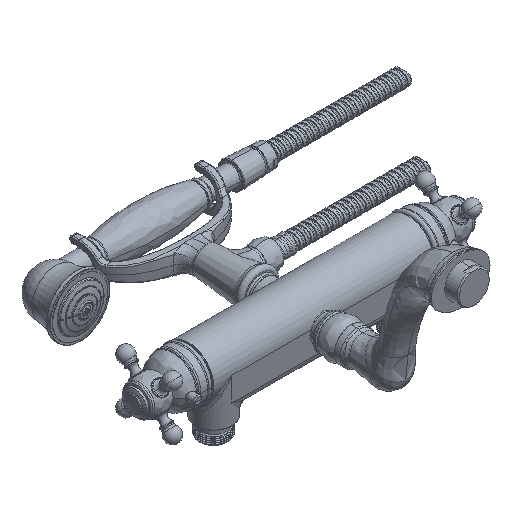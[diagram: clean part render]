
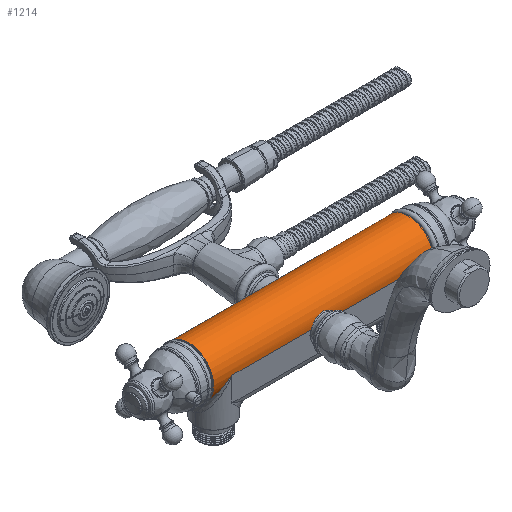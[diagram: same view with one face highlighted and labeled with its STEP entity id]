
A CAD part, isometric view. The second image highlights one B-rep face of the part: STEP entity #1214.
In plain terms, the highlighted cylindrical face has radius 21.75 mm (diameter 43.5 mm), a partial arc.
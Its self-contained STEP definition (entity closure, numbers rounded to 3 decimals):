
#1=CARTESIAN_POINT('',(96.,0.,0.));
#2=DIRECTION('',(1.,0.,0.));
#3=DIRECTION('',(0.,0.375,-0.927));
#4=AXIS2_PLACEMENT_3D('',#1,#2,#3);
#51=CARTESIAN_POINT('',(-96.,0.,0.));
#52=DIRECTION('',(1.,0.,0.));
#53=DIRECTION('',(0.,0.375,-0.927));
#54=AXIS2_PLACEMENT_3D('',#51,#52,#53);
#306=CARTESIAN_POINT('',(80.,-21.75,0.));
#307=CARTESIAN_POINT('',(80.937,-21.75,
-0.792));
#308=CARTESIAN_POINT('',(82.677,-21.663,-2.264));
#309=CARTESIAN_POINT('',(84.819,-21.386,-4.08));
#310=CARTESIAN_POINT('',(86.668,-21.021,-5.652));
#311=CARTESIAN_POINT('',(88.327,-20.587,-7.067));
#312=CARTESIAN_POINT('',(89.947,-20.058,-8.455));
#313=CARTESIAN_POINT('',(91.583,-19.405,-9.866));
#314=CARTESIAN_POINT('',(93.19,-18.629,-11.264));
#315=CARTESIAN_POINT('',(94.708,-17.752,-12.599));
#316=CARTESIAN_POINT('',(95.587,-17.153,-13.382));
#317=CARTESIAN_POINT('',(96.,-16.85,-13.753));
#319=DIRECTION('',(1.,0.,0.));
#320=VECTOR('',#319,69.038);
#321=CARTESIAN_POINT('',(10.962,-21.75,0.));
#322=LINE('',#321,#320);
#323=CARTESIAN_POINT('',(10.962,-21.75,0.));
#324=CARTESIAN_POINT('',(10.67,-21.75,0.712));
#325=CARTESIAN_POINT('',(9.958,-21.681,2.056));
#326=CARTESIAN_POINT('',(8.52,-21.43,3.844));
#327=CARTESIAN_POINT('',(6.731,-21.097,5.347));
#328=CARTESIAN_POINT('',(4.647,-20.767,6.489));
#329=CARTESIAN_POINT('',(2.346,-20.527,7.196));
#330=CARTESIAN_POINT('',(0.792,-20.47,7.35));
#331=CARTESIAN_POINT('',(0.,-20.47,7.35));
#333=CARTESIAN_POINT('',(0.,-20.47,7.35));
#334=CARTESIAN_POINT('',(-0.792,-20.47,7.35));
#335=CARTESIAN_POINT('',(-2.346,-20.527,7.196));
#336=CARTESIAN_POINT('',(-4.647,-20.767,6.489));
#337=CARTESIAN_POINT('',(-6.731,-21.097,5.347));
#338=CARTESIAN_POINT('',(-8.519,-21.43,3.844));
#339=CARTESIAN_POINT('',(-9.958,-21.681,2.057));
#340=CARTESIAN_POINT('',(-10.67,-21.75,0.712));
#341=CARTESIAN_POINT('',(-10.962,-21.75,0.));
#343=DIRECTION('',(1.,0.,0.));
#344=VECTOR('',#343,69.038);
#345=CARTESIAN_POINT('',(-80.,-21.75,0.));
#346=LINE('',#345,#344);
#347=CARTESIAN_POINT('',(-96.,-16.85,-13.753));
#348=CARTESIAN_POINT('',(-95.589,-17.151,
-13.384));
#349=CARTESIAN_POINT('',(-94.718,-17.745,
-12.608));
#350=CARTESIAN_POINT('',(-93.231,-18.607,
-11.3));
#351=CARTESIAN_POINT('',(-91.66,-19.37,
-9.933));
#352=CARTESIAN_POINT('',(-90.043,-20.024,
-8.538));
#353=CARTESIAN_POINT('',(-88.403,-20.566,
-7.131));
#354=CARTESIAN_POINT('',(-86.695,-21.016,
-5.675));
#355=CARTESIAN_POINT('',(-84.801,-21.39,
-4.064));
#356=CARTESIAN_POINT('',(-82.635,-21.666,
-2.229));
#357=CARTESIAN_POINT('',(-80.918,-21.75,
-0.776));
#358=CARTESIAN_POINT('',(-80.,-21.75,0.));
#360=CARTESIAN_POINT('',(-66.469,9.722,-19.456));
#361=CARTESIAN_POINT('',(-67.615,10.352,-19.141));
#362=CARTESIAN_POINT('',(-69.979,11.415,-18.536));
#363=CARTESIAN_POINT('',(-73.855,12.511,-17.801));
#364=CARTESIAN_POINT('',(-77.713,13.044,-17.405));
#365=CARTESIAN_POINT('',(-81.536,13.092,-17.369));
#366=CARTESIAN_POINT('',(-85.391,12.654,-17.696));
#367=CARTESIAN_POINT('',(-89.278,11.677,-18.37));
#368=CARTESIAN_POINT('',(-92.969,10.132,-19.28));
#369=CARTESIAN_POINT('',(-95.036,8.858,-19.879));
#370=CARTESIAN_POINT('',(-96.,8.151,-20.165));
#372=DIRECTION('',(1.,0.,0.));
#373=VECTOR('',#372,132.931);
#374=CARTESIAN_POINT('',(-66.466,9.722,-19.456));
#375=LINE('',#374,#373);
#376=CARTESIAN_POINT('',(96.,8.151,-20.165));
#377=CARTESIAN_POINT('',(95.035,8.858,-19.879));
#378=CARTESIAN_POINT('',(92.968,10.132,-19.28));
#379=CARTESIAN_POINT('',(89.278,11.677,-18.37));
#380=CARTESIAN_POINT('',(85.39,12.654,-17.696));
#381=CARTESIAN_POINT('',(81.535,13.092,-17.369));
#382=CARTESIAN_POINT('',(77.713,13.044,-17.405));
#383=CARTESIAN_POINT('',(73.855,12.511,-17.801));
#384=CARTESIAN_POINT('',(69.979,11.415,-18.536));
#385=CARTESIAN_POINT('',(67.615,10.352,-19.141));
#386=CARTESIAN_POINT('',(66.469,9.722,-19.456));
#958=CARTESIAN_POINT('',(80.,-21.75,0.));
#959=VERTEX_POINT('',#958);
#960=CARTESIAN_POINT('',(-80.,-21.75,0.));
#961=VERTEX_POINT('',#960);
#962=CARTESIAN_POINT('',(-66.466,9.722,-19.456));
#963=CARTESIAN_POINT('',(66.466,9.722,-19.456));
#964=VERTEX_POINT('',#962);
#965=VERTEX_POINT('',#963);
#970=CARTESIAN_POINT('',(96.,8.151,-20.165));
#971=CARTESIAN_POINT('',(96.,-16.85,-13.753));
#972=VERTEX_POINT('',#970);
#973=VERTEX_POINT('',#971);
#976=CARTESIAN_POINT('',(-96.,8.151,-20.165));
#977=CARTESIAN_POINT('',(-96.,-16.85,-13.753));
#978=VERTEX_POINT('',#976);
#979=VERTEX_POINT('',#977);
#982=VERTEX_POINT('',#333);
#983=VERTEX_POINT('',#341);
#986=VERTEX_POINT('',#323);
#1187=CARTESIAN_POINT('',(-97.5,0.,0.));
#1188=DIRECTION('',(1.,0.,0.));
#1189=DIRECTION('',(0.,0.,1.));
#1190=AXIS2_PLACEMENT_3D('',#1187,#1188,#1189);
#1191=CYLINDRICAL_SURFACE('',#1190,21.75);
#1192=ORIENTED_EDGE('',*,*,#1036,.T.);
#1194=ORIENTED_EDGE('',*,*,#1193,.F.);
#1196=ORIENTED_EDGE('',*,*,#1195,.F.);
#1198=ORIENTED_EDGE('',*,*,#1197,.T.);
#1200=ORIENTED_EDGE('',*,*,#1199,.T.);
#1202=ORIENTED_EDGE('',*,*,#1201,.F.);
#1204=ORIENTED_EDGE('',*,*,#1203,.F.);
#1205=ORIENTED_EDGE('',*,*,#1076,.F.);
#1207=ORIENTED_EDGE('',*,*,#1206,.F.);
#1209=ORIENTED_EDGE('',*,*,#1208,.T.);
#1211=ORIENTED_EDGE('',*,*,#1210,.F.);
#1212=EDGE_LOOP('',(#1192,#1194,#1196,#1198,#1200,#1202,#1204,#1205,#1207,#1209,
#1211));
#1213=FACE_OUTER_BOUND('',#1212,.F.);
#1214=ADVANCED_FACE('',(#1213),#1191,.T.);
#5=CIRCLE('',#4,21.75);
#55=CIRCLE('',#54,21.75);
#318=B_SPLINE_CURVE_WITH_KNOTS('',3,(#306,#307,#308,#309,#310,#311,#312,#313,
#314,#315,#316,#317),.UNSPECIFIED.,.F.,.F.,(4,1,1,1,1,1,1,1,1,4),(0.,
0.111,0.222,0.333,0.444,
0.556,0.667,0.778,0.889,1.),
.UNSPECIFIED.);
#332=B_SPLINE_CURVE_WITH_KNOTS('',3,(#323,#324,#325,#326,#327,#328,#329,#330,
#331),.UNSPECIFIED.,.F.,.F.,(4,1,1,1,1,1,4),(0.,0.167,
0.333,0.5,0.667,0.833,1.),
.UNSPECIFIED.);
#342=B_SPLINE_CURVE_WITH_KNOTS('',3,(#333,#334,#335,#336,#337,#338,#339,#340,
#341),.UNSPECIFIED.,.F.,.F.,(4,1,1,1,1,1,4),(0.,0.167,
0.333,0.5,0.667,0.833,1.),
.UNSPECIFIED.);
#359=B_SPLINE_CURVE_WITH_KNOTS('',3,(#347,#348,#349,#350,#351,#352,#353,#354,
#355,#356,#357,#358),.UNSPECIFIED.,.F.,.F.,(4,1,1,1,1,1,1,1,1,4),(0.,
0.111,0.222,0.333,0.444,
0.556,0.667,0.778,0.889,1.),
.UNSPECIFIED.);
#371=B_SPLINE_CURVE_WITH_KNOTS('',3,(#360,#361,#362,#363,#364,#365,#366,#367,
#368,#369,#370),.UNSPECIFIED.,.F.,.F.,(4,1,1,1,1,1,1,1,4),(0.,0.125,0.25,
0.375,0.5,0.625,0.75,0.875,1.),.UNSPECIFIED.);
#387=B_SPLINE_CURVE_WITH_KNOTS('',3,(#376,#377,#378,#379,#380,#381,#382,#383,
#384,#385,#386),.UNSPECIFIED.,.F.,.F.,(4,1,1,1,1,1,1,1,4),(0.,0.125,0.25,
0.375,0.5,0.625,0.75,0.875,1.),.UNSPECIFIED.);
#1036=EDGE_CURVE('',#972,#973,#5,.T.);
#1076=EDGE_CURVE('',#978,#979,#55,.T.);
#1193=EDGE_CURVE('',#959,#973,#318,.T.);
#1195=EDGE_CURVE('',#986,#959,#322,.T.);
#1197=EDGE_CURVE('',#986,#982,#332,.T.);
#1199=EDGE_CURVE('',#982,#983,#342,.T.);
#1201=EDGE_CURVE('',#961,#983,#346,.T.);
#1203=EDGE_CURVE('',#979,#961,#359,.T.);
#1206=EDGE_CURVE('',#964,#978,#371,.T.);
#1208=EDGE_CURVE('',#964,#965,#375,.T.);
#1210=EDGE_CURVE('',#972,#965,#387,.T.);
